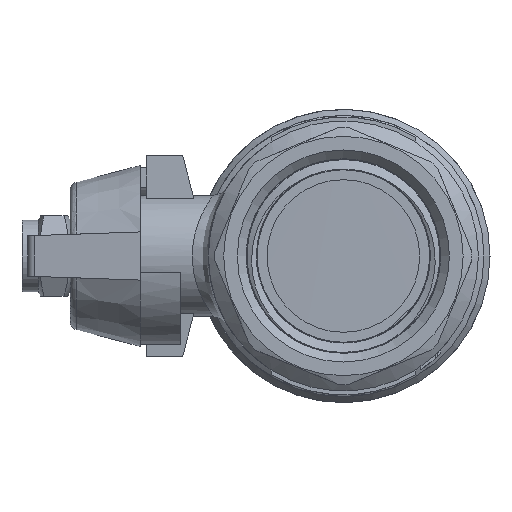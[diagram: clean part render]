
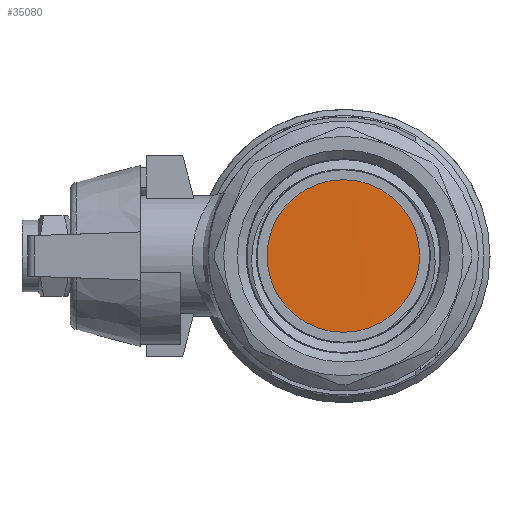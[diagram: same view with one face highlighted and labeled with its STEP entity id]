
A CAD part, left-side view. The second image highlights one B-rep face of the part: STEP entity #35080.
In plain terms, the highlighted cylindrical face has radius 16 mm (diameter 32 mm), a full revolution.
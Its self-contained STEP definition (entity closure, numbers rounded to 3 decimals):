
#3759=B_SPLINE_CURVE_WITH_KNOTS('',3,(#105144,#105145,#105146,#105147,#105148,
#105149,#105150,#105151,#105152,#105153,#105154,#105155,#105156,#105157,
#105158,#105159,#105160),.UNSPECIFIED.,.F.,.F.,(4,1,1,1,1,1,1,1,1,1,1,1,
1,1,4),(12.566,12.752,13.241,13.731,
14.22,14.709,15.198,15.687,16.176,
16.665,17.154,17.643,18.132,18.621,
18.85),.UNSPECIFIED.);
#4101=CYLINDRICAL_SURFACE('',#37267,16.);
#6948=FACE_OUTER_BOUND('',#8966,.T.);
#8966=EDGE_LOOP('',(#32988,#32989,#32990));
#10771=LINE('',#104906,#12565);
#10775=LINE('',#105143,#12569);
#12565=VECTOR('',#43088,16.);
#12569=VECTOR('',#43102,16.);
#16807=VERTEX_POINT('',#104904);
#16808=VERTEX_POINT('',#104905);
#16816=VERTEX_POINT('',#105142);
#22204=EDGE_CURVE('',#16807,#16808,#10771,.T.);
#22216=EDGE_CURVE('',#16816,#16808,#10775,.T.);
#22217=EDGE_CURVE('',#16816,#16807,#3759,.T.);
#32988=ORIENTED_EDGE('',*,*,#22204,.T.);
#32989=ORIENTED_EDGE('',*,*,#22216,.F.);
#32990=ORIENTED_EDGE('',*,*,#22217,.T.);
#35080=ADVANCED_FACE('',(#6948),#4101,.T.);
#37267=AXIS2_PLACEMENT_3D('',#105141,#43100,#43101);
#43088=DIRECTION('',(1.,0.,0.));
#43100=DIRECTION('center_axis',(1.,0.,0.));
#43101=DIRECTION('ref_axis',(0.,0.,1.));
#43102=DIRECTION('',(-1.,0.,0.));
#104904=CARTESIAN_POINT('',(-3.497,0.,-16.));
#104905=CARTESIAN_POINT('',(-2.509,0.,-16.));
#104906=CARTESIAN_POINT('',(-3.5,0.,-16.));
#105141=CARTESIAN_POINT('Origin',(-3.5,0.,0.));
#105142=CARTESIAN_POINT('',(-2.496,0.,-16.));
#105143=CARTESIAN_POINT('',(-3.5,0.,-16.));
#105144=CARTESIAN_POINT('Ctrl Pts',(-2.496,0.,
-15.999));
#105145=CARTESIAN_POINT('Ctrl Pts',(-2.506,-0.992,
-16.));
#105146=CARTESIAN_POINT('Ctrl Pts',(-2.542,-4.593,
-15.67));
#105147=CARTESIAN_POINT('Ctrl Pts',(-2.604,-10.407,
-12.999));
#105148=CARTESIAN_POINT('Ctrl Pts',(-2.682,-15.294,
-6.586));
#105149=CARTESIAN_POINT('Ctrl Pts',(-2.76,-16.595,
1.372));
#105150=CARTESIAN_POINT('Ctrl Pts',(-2.838,-14.005,
9.008));
#105151=CARTESIAN_POINT('Ctrl Pts',(-2.915,-8.131,
14.532));
#105152=CARTESIAN_POINT('Ctrl Pts',(-2.993,-0.35,
16.648));
#105153=CARTESIAN_POINT('Ctrl Pts',(-3.071,7.513,
14.861));
#105154=CARTESIAN_POINT('Ctrl Pts',(-3.149,13.614,9.589));
#105155=CARTESIAN_POINT('Ctrl Pts',(-3.227,16.523,2.069));
#105156=CARTESIAN_POINT('Ctrl Pts',(-3.305,15.558,
-5.937));
#105157=CARTESIAN_POINT('Ctrl Pts',(-3.383,10.945,
-12.55));
#105158=CARTESIAN_POINT('Ctrl Pts',(-3.447,5.042,
-15.568));
#105159=CARTESIAN_POINT('Ctrl Pts',(-3.485,1.217,
-15.999));
#105160=CARTESIAN_POINT('Ctrl Pts',(-3.497,0.,
-15.999));
